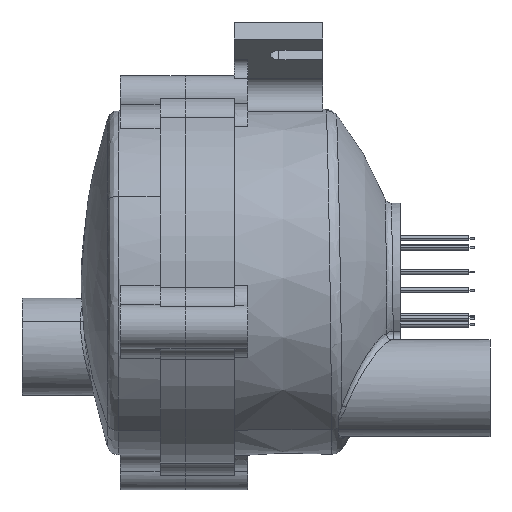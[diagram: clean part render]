
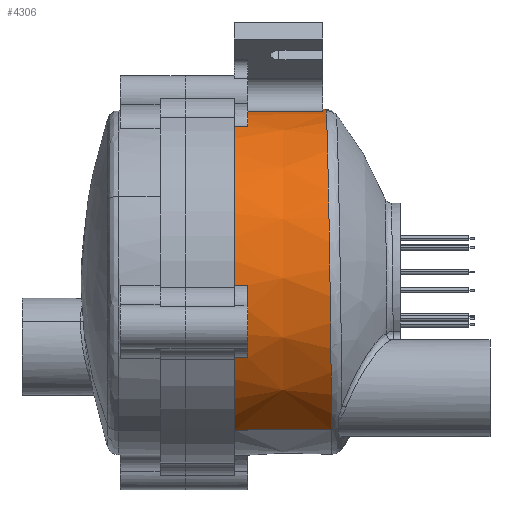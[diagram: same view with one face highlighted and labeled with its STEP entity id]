
A CAD part, left-side view. The second image highlights one B-rep face of the part: STEP entity #4306.
In plain terms, the highlighted conical face has half-angle 0.3 degrees and reference radius 39.344 mm.
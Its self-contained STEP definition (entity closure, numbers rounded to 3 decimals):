
#147=CARTESIAN_POINT('',(0.,31.917,40.144));
#152=DIRECTION('',(0.,-1.,0.005));
#153=VECTOR('',#152,20.717);
#154=CARTESIAN_POINT('',(0.,31.917,40.144));
#155=LINE('',#154,#153);
#169=DIRECTION('',(0.,-1.,-0.005));
#170=VECTOR('',#169,22.046);
#171=CARTESIAN_POINT('',(0.,33.245,
-38.437));
#172=LINE('',#171,#170);
#176=DIRECTION('',(-0.003,1.,0.004));
#177=VECTOR('',#176,3.);
#178=CARTESIAN_POINT('',(21.28,11.2,-32.312));
#179=LINE('',#178,#177);
#183=DIRECTION('',(0.004,-1.,-0.003));
#184=VECTOR('',#183,3.);
#185=CARTESIAN_POINT('',(33.266,14.2,-20.237));
#186=LINE('',#185,#184);
#190=DIRECTION('',(-0.004,1.,-0.003));
#191=VECTOR('',#190,3.);
#192=CARTESIAN_POINT('',(33.169,11.2,22.118));
#193=LINE('',#192,#191);
#234=CARTESIAN_POINT('',(0.,11.2,0.85));
#235=DIRECTION('',(0.,1.,0.));
#236=DIRECTION('',(0.54,0.,-0.842));
#237=AXIS2_PLACEMENT_3D('',#234,#235,#236);
#544=CARTESIAN_POINT('',(0.,11.2,0.85));
#545=DIRECTION('',(0.,1.,0.));
#546=DIRECTION('',(0.,0.,1.));
#547=AXIS2_PLACEMENT_3D('',#544,#545,#546);
#590=DIRECTION('',(-0.003,1.,-0.004));
#591=VECTOR('',#590,20.1);
#592=CARTESIAN_POINT('',(14.362,11.2,37.541));
#593=LINE('',#592,#591);
#619=CARTESIAN_POINT('',(0.,31.3,0.85));
#620=DIRECTION('',(0.,1.,0.));
#621=DIRECTION('',(0.364,0.,0.931));
#622=AXIS2_PLACEMENT_3D('',#619,#620,#621);
#730=CARTESIAN_POINT('',(0.,14.2,0.85));
#731=DIRECTION('',(0.,1.,0.));
#732=DIRECTION('',(0.656,0.,0.755));
#733=AXIS2_PLACEMENT_3D('',#730,#731,#732);
#850=CARTESIAN_POINT('',(0.,11.2,0.85));
#851=DIRECTION('',(0.,1.,0.));
#852=DIRECTION('',(0.842,0.,0.54));
#853=AXIS2_PLACEMENT_3D('',#850,#851,#852);
#858=CARTESIAN_POINT('',(0.,11.2,0.85));
#859=DIRECTION('',(0.,1.,0.));
#860=DIRECTION('',(1.,0.,0.));
#861=AXIS2_PLACEMENT_3D('',#858,#859,#860);
#1089=CARTESIAN_POINT('',(0.,14.2,0.85));
#1090=DIRECTION('',(0.,1.,0.));
#1091=DIRECTION('',(0.845,0.,-0.535));
#1092=AXIS2_PLACEMENT_3D('',#1089,#1090,#1091);
#1284=CARTESIAN_POINT('',(25.754,31.3,30.531));
#1285=CARTESIAN_POINT('',(25.763,29.362,30.537));
#1286=CARTESIAN_POINT('',(25.782,25.511,30.548));
#1287=CARTESIAN_POINT('',(25.805,19.811,30.562));
#1288=CARTESIAN_POINT('',(25.835,16.062,30.578));
#1289=CARTESIAN_POINT('',(25.843,14.2,30.584));
#3164=CARTESIAN_POINT('',(0.,33.245,
-38.437));
#3165=CARTESIAN_POINT('',(1.869,33.245,-38.437));
#3166=CARTESIAN_POINT('',(5.606,33.241,-38.17));
#3167=CARTESIAN_POINT('',(11.101,33.221,-36.975));
#3168=CARTESIAN_POINT('',(16.371,33.189,-35.011));
#3169=CARTESIAN_POINT('',(21.308,33.143,-32.316));
#3170=CARTESIAN_POINT('',(25.812,33.087,-28.945));
#3171=CARTESIAN_POINT('',(29.791,33.02,-24.968));
#3172=CARTESIAN_POINT('',(33.163,32.944,-20.464));
#3173=CARTESIAN_POINT('',(35.86,32.861,-15.527));
#3174=CARTESIAN_POINT('',(37.826,32.772,-10.256));
#3175=CARTESIAN_POINT('',(39.022,32.679,-4.76));
#3176=CARTESIAN_POINT('',(39.29,32.616,-1.02));
#3177=CARTESIAN_POINT('',(39.29,32.584,0.85));
#3182=CARTESIAN_POINT('',(39.29,32.584,0.85));
#3183=CARTESIAN_POINT('',(39.29,32.552,2.719));
#3184=CARTESIAN_POINT('',(39.023,32.489,6.458));
#3185=CARTESIAN_POINT('',(37.829,32.396,11.954));
#3186=CARTESIAN_POINT('',(35.864,32.307,17.225));
#3187=CARTESIAN_POINT('',(33.168,32.223,22.164));
#3188=CARTESIAN_POINT('',(29.796,32.147,26.669));
#3189=CARTESIAN_POINT('',(25.817,32.079,30.648));
#3190=CARTESIAN_POINT('',(21.313,32.022,34.02));
#3191=CARTESIAN_POINT('',(16.374,31.976,36.716));
#3192=CARTESIAN_POINT('',(11.103,31.942,38.682));
#3193=CARTESIAN_POINT('',(5.607,31.922,39.876));
#3194=CARTESIAN_POINT('',(1.869,31.917,40.144));
#3195=CARTESIAN_POINT('',(0.,31.917,
40.144));
#3740=CARTESIAN_POINT('',(0.,33.245,
-38.437));
#3741=CARTESIAN_POINT('',(0.,11.2,-38.552));
#3742=VERTEX_POINT('',#3740);
#3743=VERTEX_POINT('',#3741);
#3745=VERTEX_POINT('',#147);
#3746=CARTESIAN_POINT('',(0.,11.2,40.252));
#3747=VERTEX_POINT('',#3746);
#3769=CARTESIAN_POINT('',(21.28,11.2,-32.311));
#3770=VERTEX_POINT('',#3769);
#3771=CARTESIAN_POINT('',(21.27,14.2,-32.299));
#3772=VERTEX_POINT('',#3771);
#3773=CARTESIAN_POINT('',(33.266,14.2,-20.236));
#3774=VERTEX_POINT('',#3773);
#3775=CARTESIAN_POINT('',(33.279,11.2,-20.246));
#3776=VERTEX_POINT('',#3775);
#3777=CARTESIAN_POINT('',(33.169,11.2,22.119));
#3778=CARTESIAN_POINT('',(39.402,11.2,0.85));
#3779=VERTEX_POINT('',#3777);
#3780=VERTEX_POINT('',#3778);
#3781=CARTESIAN_POINT('',(33.157,14.2,22.108));
#3782=VERTEX_POINT('',#3781);
#3783=CARTESIAN_POINT('',(25.837,14.2,30.577));
#3784=VERTEX_POINT('',#3783);
#3785=VERTEX_POINT('',#1284);
#3786=CARTESIAN_POINT('',(14.301,31.3,37.452));
#3787=VERTEX_POINT('',#3786);
#3788=CARTESIAN_POINT('',(14.362,11.2,37.541));
#3789=VERTEX_POINT('',#3788);
#3790=VERTEX_POINT('',#3182);
#4269=CARTESIAN_POINT('',(0.,22.223,0.85));
#4270=DIRECTION('',(0.,-1.,0.));
#4271=DIRECTION('',(-1.,0.,0.));
#4272=AXIS2_PLACEMENT_3D('',#4269,#4270,#4271);
#4273=CONICAL_SURFACE('',#4272,39.344,0.3);
#4274=ORIENTED_EDGE('',*,*,#4234,.T.);
#4276=ORIENTED_EDGE('',*,*,#4275,.F.);
#4278=ORIENTED_EDGE('',*,*,#4277,.T.);
#4280=ORIENTED_EDGE('',*,*,#4279,.F.);
#4282=ORIENTED_EDGE('',*,*,#4281,.T.);
#4284=ORIENTED_EDGE('',*,*,#4283,.F.);
#4286=ORIENTED_EDGE('',*,*,#4285,.F.);
#4288=ORIENTED_EDGE('',*,*,#4287,.T.);
#4290=ORIENTED_EDGE('',*,*,#4289,.F.);
#4292=ORIENTED_EDGE('',*,*,#4291,.F.);
#4294=ORIENTED_EDGE('',*,*,#4293,.F.);
#4296=ORIENTED_EDGE('',*,*,#4295,.F.);
#4298=ORIENTED_EDGE('',*,*,#4297,.F.);
#4299=ORIENTED_EDGE('',*,*,#4240,.F.);
#4301=ORIENTED_EDGE('',*,*,#4300,.F.);
#4303=ORIENTED_EDGE('',*,*,#4302,.F.);
#4304=EDGE_LOOP('',(#4274,#4276,#4278,#4280,#4282,#4284,#4286,#4288,#4290,#4292,
#4294,#4296,#4298,#4299,#4301,#4303));
#4305=FACE_OUTER_BOUND('',#4304,.F.);
#4306=ADVANCED_FACE('',(#4305),#4273,.T.);
#238=CIRCLE('',#237,39.402);
#548=CIRCLE('',#547,39.402);
#623=CIRCLE('',#622,39.297);
#734=CIRCLE('',#733,39.386);
#854=CIRCLE('',#853,39.402);
#862=CIRCLE('',#861,39.402);
#1093=CIRCLE('',#1092,39.386);
#1290=B_SPLINE_CURVE_WITH_KNOTS('',3,(#1284,#1285,#1286,#1287,#1288,#1289),
.UNSPECIFIED.,.F.,.F.,(4,1,1,4),(0.,0.333,0.667,1.),
.UNSPECIFIED.);
#3178=B_SPLINE_CURVE_WITH_KNOTS('',3,(#3164,#3165,#3166,#3167,#3168,#3169,#3170,
#3171,#3172,#3173,#3174,#3175,#3176,#3177),.UNSPECIFIED.,.F.,.F.,(4,1,1,1,1,1,1,
1,1,1,1,4),(0.,0.091,0.182,0.273,
0.364,0.455,0.545,0.636,
0.727,0.818,0.909,1.),.UNSPECIFIED.);
#3196=B_SPLINE_CURVE_WITH_KNOTS('',3,(#3182,#3183,#3184,#3185,#3186,#3187,#3188,
#3189,#3190,#3191,#3192,#3193,#3194,#3195),.UNSPECIFIED.,.F.,.F.,(4,1,1,1,1,1,1,
1,1,1,1,4),(0.,0.091,0.182,0.273,
0.364,0.455,0.545,0.636,
0.727,0.818,0.909,1.),.UNSPECIFIED.);
#4234=EDGE_CURVE('',#3742,#3743,#172,.T.);
#4240=EDGE_CURVE('',#3745,#3747,#155,.T.);
#4275=EDGE_CURVE('',#3770,#3743,#238,.T.);
#4277=EDGE_CURVE('',#3770,#3772,#179,.T.);
#4279=EDGE_CURVE('',#3774,#3772,#1093,.T.);
#4281=EDGE_CURVE('',#3774,#3776,#186,.T.);
#4283=EDGE_CURVE('',#3780,#3776,#862,.T.);
#4285=EDGE_CURVE('',#3779,#3780,#854,.T.);
#4287=EDGE_CURVE('',#3779,#3782,#193,.T.);
#4289=EDGE_CURVE('',#3784,#3782,#734,.T.);
#4291=EDGE_CURVE('',#3785,#3784,#1290,.T.);
#4293=EDGE_CURVE('',#3787,#3785,#623,.T.);
#4295=EDGE_CURVE('',#3789,#3787,#593,.T.);
#4297=EDGE_CURVE('',#3747,#3789,#548,.T.);
#4300=EDGE_CURVE('',#3790,#3745,#3196,.T.);
#4302=EDGE_CURVE('',#3742,#3790,#3178,.T.);
